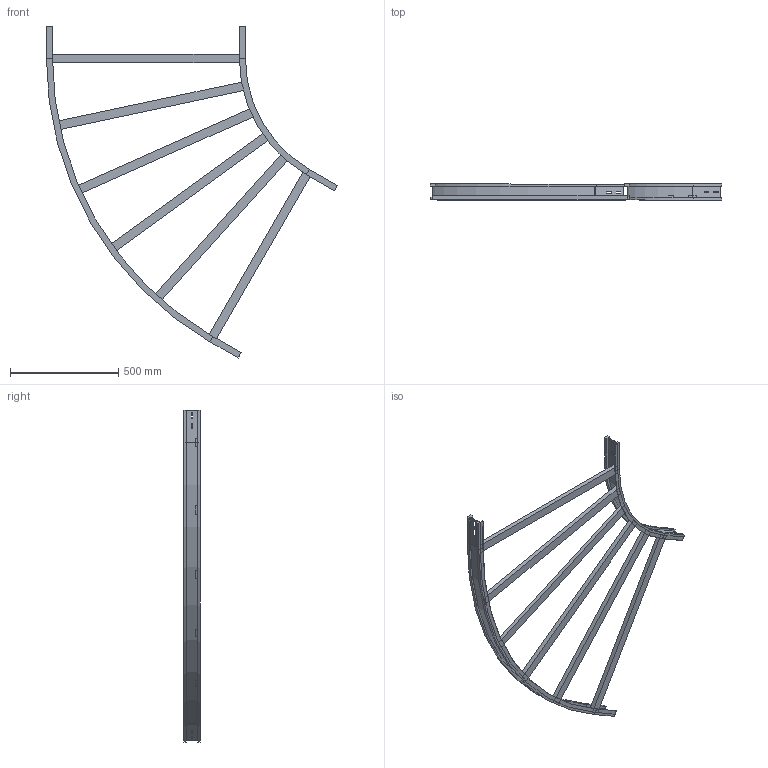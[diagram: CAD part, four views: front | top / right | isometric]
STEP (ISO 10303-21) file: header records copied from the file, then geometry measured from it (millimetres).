
FILE_DESCRIPTION (( 'STEP AP214' ), '1' );
FILE_NAME ('13S6C900.step', '2025-02-21T16:08:41', ( '' ), ( '' ), 'SwSTEP 2.0', 'SolidWorks 2023', '' );
FILE_SCHEMA (( 'AUTOMOTIVE_DESIGN' ));
Length unit declared in the file: millimetre
Products named in the file (4): TRAVERSINO_900; LONGH.ESTERNO 60°_H75_R600+900; 13S6C900; LONGH.INTERNO 60°_H75_R600
Assembly tree (8 placements, depth 2):
  13S6C900
    LONGH.INTERNO 60°_H75_R600
    LONGH.ESTERNO 60°_H75_R600+900
    TRAVERSINO_900  x6
Bounding box: 1343.4 x 75 x 1531.83 mm (x, y, z)
Volume: 5735983.8 mm3; surface area: 1351510.4 mm2
Topology: 8 solids, 8 shells, 144 faces, 336 edges, 208 vertices
Faces by surface type: plane 132, cylinder 12
Entity records: 3413 total; most frequent: CARTESIAN_POINT 569, ORIENTED_EDGE 552, DIRECTION 550, EDGE_CURVE 276, LINE 252, VECTOR 252, VERTEX_POINT 168, AXIS2_PLACEMENT_3D 149
